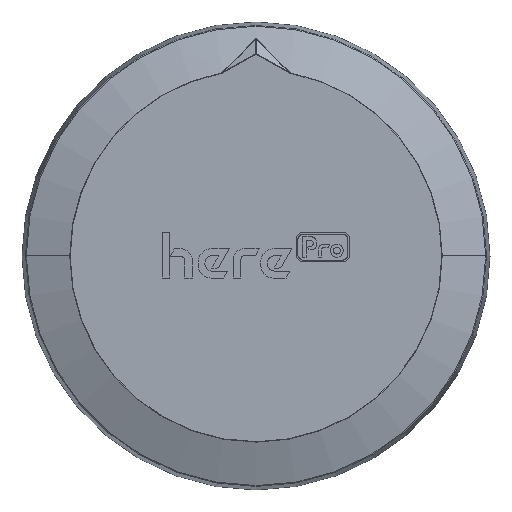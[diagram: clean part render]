
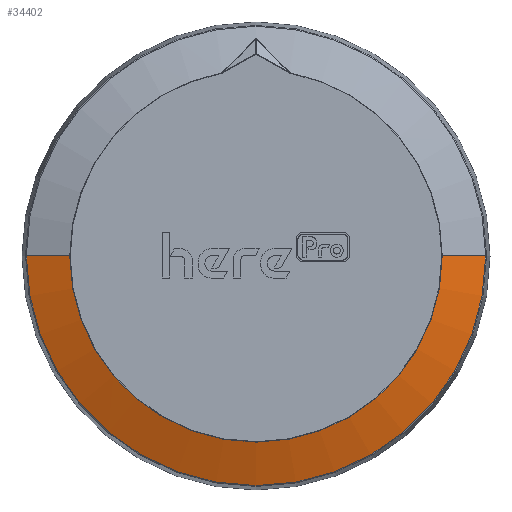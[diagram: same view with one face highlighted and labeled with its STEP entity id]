
A CAD part, top view. The second image highlights one B-rep face of the part: STEP entity #34402.
In plain terms, the highlighted conical face has half-angle 70 degrees and reference radius 34.653 mm.
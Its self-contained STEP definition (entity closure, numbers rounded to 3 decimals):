
#50 = VERTEX_POINT ( 'NONE', #30290 ) ;
#605 = ORIENTED_EDGE ( 'NONE', *, *, #35894, .T. ) ;
#909 = VERTEX_POINT ( 'NONE', #6014 ) ;
#1557 = DIRECTION ( 'NONE',  ( -0.94, 0., -0.342 ) ) ;
#2493 = LINE ( 'NONE', #34766, #20696 ) ;
#2708 = AXIS2_PLACEMENT_3D ( 'NONE', #6654, #7061, #25518 ) ;
#5909 = LINE ( 'NONE', #32464, #11182 ) ;
#6014 = CARTESIAN_POINT ( 'NONE',  ( -38.272, 0., 5.753 ) ) ;
#6654 = CARTESIAN_POINT ( 'NONE',  ( 0., 0., 7.071 ) ) ;
#7024 = VERTEX_POINT ( 'NONE', #33742 ) ;
#7061 = DIRECTION ( 'NONE',  ( 0., 0., -1. ) ) ;
#7237 = DIRECTION ( 'NONE',  ( 1., 0., 0. ) ) ;
#8377 = EDGE_CURVE ( 'NONE', #31554, #7024, #23283, .T. ) ;
#8678 = ORIENTED_EDGE ( 'NONE', *, *, #19897, .F. ) ;
#11182 = VECTOR ( 'NONE', #23276, 1000. ) ;
#11821 = EDGE_CURVE ( 'NONE', #50, #909, #29928, .T. ) ;
#11850 = CIRCLE ( 'NONE', #25154, 31.033 ) ;
#13655 = AXIS2_PLACEMENT_3D ( 'NONE', #32080, #16743, #7237 ) ;
#15386 = DIRECTION ( 'NONE',  ( 0., 0., -1. ) ) ;
#16743 = DIRECTION ( 'NONE',  ( 0., 0., -1. ) ) ;
#18176 = CARTESIAN_POINT ( 'NONE',  ( 0., 0., 8.388 ) ) ;
#19897 = EDGE_CURVE ( 'NONE', #31554, #50, #5909, .T. ) ;
#20696 = VECTOR ( 'NONE', #1557, 1000. ) ;
#21326 = ORIENTED_EDGE ( 'NONE', *, *, #11821, .F. ) ;
#21356 = AXIS2_PLACEMENT_3D ( 'NONE', #18176, #15386, #30706 ) ;
#22474 = ORIENTED_EDGE ( 'NONE', *, *, #39453, .T. ) ;
#23276 = DIRECTION ( 'NONE',  ( 0.94, 0., -0.342 ) ) ;
#23283 = CIRCLE ( 'NONE', #21356, 31.033 ) ;
#25154 = AXIS2_PLACEMENT_3D ( 'NONE', #30269, #33188, #39553 ) ;
#25518 = DIRECTION ( 'NONE',  ( 1., 0., 0. ) ) ;
#27093 = CONICAL_SURFACE ( 'NONE', #2708, 34.652, 1.222 ) ;
#28776 = EDGE_LOOP ( 'NONE', ( #605, #21326, #8678, #36798, #22474 ) ) ;
#29928 = CIRCLE ( 'NONE', #13655, 38.272 ) ;
#30269 = CARTESIAN_POINT ( 'NONE',  ( 0., 0., 8.388 ) ) ;
#30290 = CARTESIAN_POINT ( 'NONE',  ( 38.272, 0., 5.753 ) ) ;
#30706 = DIRECTION ( 'NONE',  ( 1., 0., 0. ) ) ;
#31554 = VERTEX_POINT ( 'NONE', #37534 ) ;
#32064 = VERTEX_POINT ( 'NONE', #37085 ) ;
#32080 = CARTESIAN_POINT ( 'NONE',  ( 0., 0., 5.753 ) ) ;
#32464 = CARTESIAN_POINT ( 'NONE',  ( 31.033, 0., 8.388 ) ) ;
#33188 = DIRECTION ( 'NONE',  ( 0., 0., -1. ) ) ;
#33742 = CARTESIAN_POINT ( 'NONE',  ( -31.033, -0.04, 8.388 ) ) ;
#34402 = ADVANCED_FACE ( 'NONE', ( #36178 ), #27093, .T. ) ;
#34766 = CARTESIAN_POINT ( 'NONE',  ( -31.033, 0., 8.388 ) ) ;
#35894 = EDGE_CURVE ( 'NONE', #32064, #909, #2493, .T. ) ;
#36178 = FACE_OUTER_BOUND ( 'NONE', #28776, .T. ) ;
#36798 = ORIENTED_EDGE ( 'NONE', *, *, #8377, .T. ) ;
#37085 = CARTESIAN_POINT ( 'NONE',  ( -31.033, 0., 8.388 ) ) ;
#37534 = CARTESIAN_POINT ( 'NONE',  ( 31.033, 0., 8.388 ) ) ;
#39453 = EDGE_CURVE ( 'NONE', #7024, #32064, #11850, .T. ) ;
#39553 = DIRECTION ( 'NONE',  ( 1., 0., 0. ) ) ;
